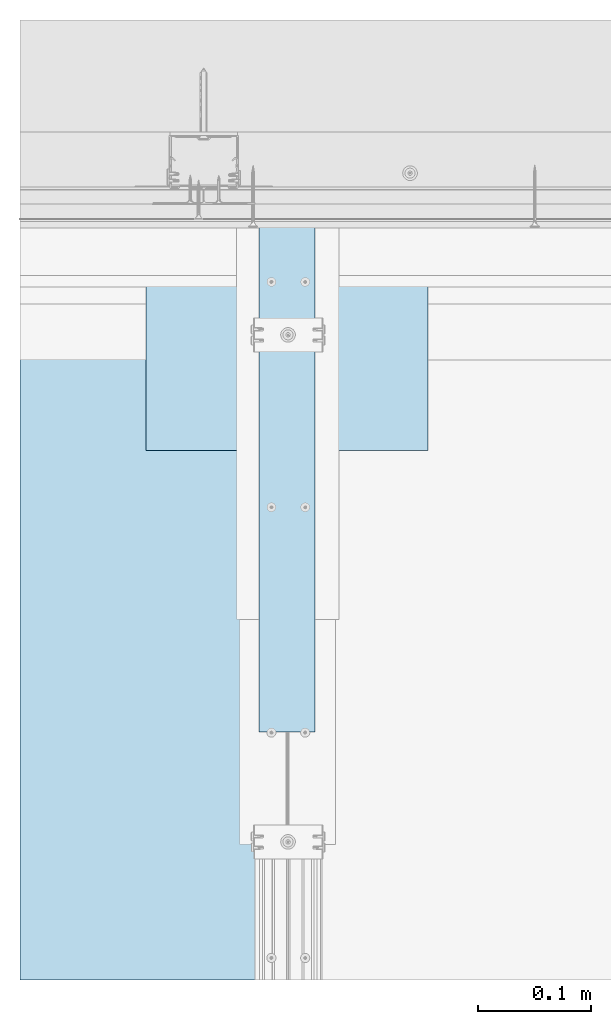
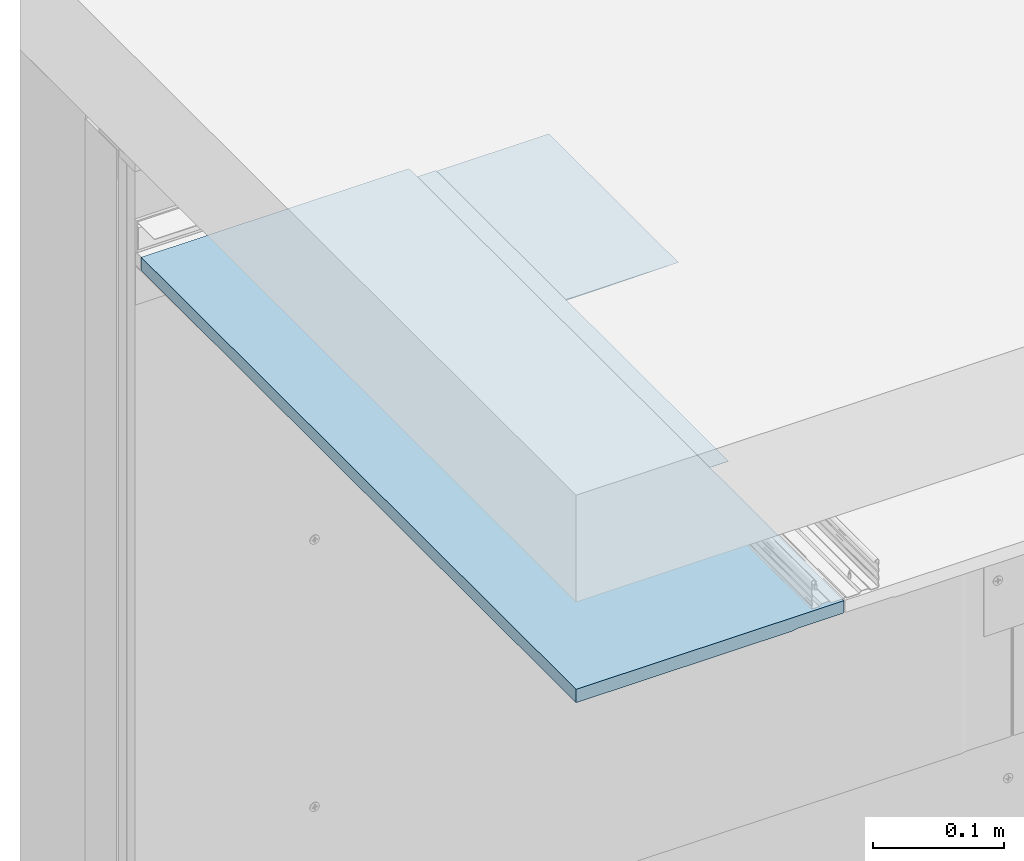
# One storey, part 2 of 62: 3 slabs.
"""IFC2X3 building model written with IfcOpenShell, lengths in millimetres."""

import ifcopenshell
import ifcopenshell.guid

model = None  # the IFC model being written
_history = None  # IfcOwnerHistory: only IFC2X3 demands one
_inside = {}  # id of a spatial element -> (the spatial element, [elements in it])
_under = {}  # id of a project, library or spatial element -> (it, [spatial elements below it])
_declared = {}  # id of a project -> (the project, [libraries it declares])
_typed = {}  # id of a type object -> (the type object, [elements of that type])
_made_of = {}  # id of a material, layer set ... -> (it, [elements and type objects made of it])


def new_model(schema):
    """Start an empty IFC model of exactly this schema.

    Asked for "IFC4X3", IfcOpenShell would pick the latest addendum, in which some entities
    have other attributes; the version numbers below select the first issue.
    IFC2X3 requires an IfcOwnerHistory on every rooted entity: one is made here for all.
    """
    global model, _history
    if schema == "IFC4X3":
        model = ifcopenshell.file(schema_version=(4, 3, 0, 0))
    else:
        model = ifcopenshell.file(schema=schema)
    _inside.clear()
    _under.clear()
    _declared.clear()
    _typed.clear()
    _made_of.clear()
    _history = None
    if model.schema == "IFC2X3":
        org = make("IfcOrganization", Name="unknown")
        user = make(
            "IfcPersonAndOrganization",
            ThePerson=make("IfcPerson", FamilyName="unknown"),
            TheOrganization=org,
        )
        app = make(
            "IfcApplication",
            ApplicationDeveloper=org,
            Version="unknown",
            ApplicationFullName="unknown",
            ApplicationIdentifier="unknown",
        )
        _history = make(
            "IfcOwnerHistory",
            OwningUser=user,
            OwningApplication=app,
            ChangeAction="ADDED",
            CreationDate=0,
        )
    return model


def make(cls, **values):
    """One entity of the class cls with the attributes given. An attribute that is None is left unset."""
    return model.create_entity(
        cls, **{name: value for name, value in values.items() if value is not None}
    )


def entity(cls, *values):
    """Any entity or typed value of the class cls, its attributes in the order of the schema. None: left unset."""
    e = model.create_entity(cls)
    for i, value in enumerate(values):
        if value is not None:
            e[i] = value
    return e


def rooted(cls, **values):
    """An entity with a GlobalId (a new one), such as an element, a storey or a relation."""
    return make(cls, GlobalId=ifcopenshell.guid.new(), OwnerHistory=_history, **values)


def si_unit(unit_type, name, prefix=None):
    """IfcSIUnit, for example si_unit("LENGTHUNIT", "METRE", prefix="MILLI")."""
    return make("IfcSIUnit", UnitType=unit_type, Prefix=prefix, Name=name)


def converted_unit(unit_type, name, factor, base, dimensions=None, offset=None):
    """IfcConversionBasedUnit, such as the inch: factor (a typed value) times the base unit."""
    return make(
        "IfcConversionBasedUnit"
        if offset is None
        else "IfcConversionBasedUnitWithOffset",
        ConversionOffset=offset,
        Dimensions=None
        if dimensions is None
        else entity("IfcDimensionalExponents", *dimensions),
        UnitType=unit_type,
        Name=name,
        ConversionFactor=make(
            "IfcMeasureWithUnit", ValueComponent=factor, UnitComponent=base
        ),
    )


def assignment(units):
    """IfcUnitAssignment: the units of a project."""
    return None if units is None else make("IfcUnitAssignment", Units=units)


def point(xyz):
    """IfcCartesianPoint."""
    return None if xyz is None else make("IfcCartesianPoint", Coordinates=xyz)


def direction(xyz):
    """IfcDirection."""
    return None if xyz is None else make("IfcDirection", DirectionRatios=xyz)


def frame(location, z_axis=None, x_axis=None):
    """IfcAxis2Placement3D, a coordinate frame: its origin and axes. An axis left out is left unset."""
    return make(
        "IfcAxis2Placement3D",
        Location=point(location),
        Axis=direction(z_axis),
        RefDirection=direction(x_axis),
    )


def origin():
    """The frame at (0, 0, 0) with its axes left unset."""
    return frame((0.0, 0.0, 0.0))


def origin_with_axes():
    """The frame at (0, 0, 0) with the z axis (0, 0, 1) and the x axis (1, 0, 0) written out."""
    return frame((0.0, 0.0, 0.0), z_axis=(0.0, 0.0, 1.0), x_axis=(1.0, 0.0, 0.0))


def place(relative_to, where):
    """IfcLocalPlacement: puts the frame where relative to a parent placement (None: the world)."""
    return make(
        "IfcLocalPlacement", PlacementRelTo=relative_to, RelativePlacement=where
    )


def context(
    kind, dimensions, precision=None, world=None, true_north=None, identifier=None
):
    """IfcGeometricRepresentationContext, for example the 3D "Model" context."""
    return make(
        "IfcGeometricRepresentationContext",
        ContextIdentifier=identifier,
        ContextType=kind,
        CoordinateSpaceDimension=dimensions,
        Precision=precision,
        WorldCoordinateSystem=world,
        TrueNorth=true_north,
    )


def project(units=None, contexts=None):
    """IfcProject with its units and contexts."""
    return rooted(
        "IfcProject",
        Name="project",
        RepresentationContexts=contexts,
        UnitsInContext=assignment(units),
    )


def spatial(cls, under=None, at=None, **own):
    """A site, building, storey or space (cls), placed at a placement, below another one or the project."""
    s = rooted(cls, ObjectPlacement=at, **own)
    if under is not None:
        _under.setdefault(under.id(), (under, []))[1].append(s)
    return s


def faces_of(points, faces, orient=None, outer=None):
    """IfcFace entities. A face is a list of loops; a loop is a list of indices into points, from 0.

    orient and outer hold one flag for each loop. By default every Orientation is true, the
    first loop of a face is its IfcFaceOuterBound and the others are IfcFaceBound.
    """
    made = []
    for i, loops in enumerate(faces):
        bounds = []
        for j, loop in enumerate(loops):
            is_outer = j == 0 if outer is None else outer[i][j]
            bounds.append(
                make(
                    "IfcFaceOuterBound" if is_outer else "IfcFaceBound",
                    Bound=make("IfcPolyLoop", Polygon=[points[k] for k in loop]),
                    Orientation=True if orient is None else orient[i][j],
                )
            )
        made.append(make("IfcFace", Bounds=bounds))
    return made


def faceted_brep(points, faces, orient=None, outer=None, voids=None):
    """IfcFacetedBrep: a solid bounded by flat faces; with voids (closed shells), ...WithVoids."""
    shared = [point(p) for p in points]
    hull = make("IfcClosedShell", CfsFaces=faces_of(shared, faces, orient, outer))
    if voids is None:
        return make("IfcFacetedBrep", Outer=hull)
    return make(
        "IfcFacetedBrepWithVoids",
        Outer=hull,
        Voids=[
            make(cls, CfsFaces=faces_of(shared, fs, o, b)) for cls, fs, o, b in voids
        ],
    )


def shape(context_of_items, identifier, shape_type, items):
    """IfcShapeRepresentation: the items that make up one representation, for example the "Body"."""
    return make(
        "IfcShapeRepresentation",
        ContextOfItems=context_of_items,
        RepresentationIdentifier=identifier,
        RepresentationType=shape_type,
        Items=items,
    )


def made_of(thing, what):
    """Note that an element or type object is made of a material, layer set ...; save() writes the relation."""
    if what is not None:
        _made_of.setdefault(what.id(), (what, []))[1].append(thing)
    return thing


def element(
    cls,
    number,
    at=None,
    inside=None,
    cuts=None,
    type_object=None,
    material=None,
    context=None,
    identifier="Body",
    shape_type=None,
    held_by="IfcProductDefinitionShape",
    body=None,
    shapes=None,
    **own,
):
    """One element of the class cls, such as IfcWall. Its Tag is "e" and its number.

    at: its placement. inside: the storey or other place that contains it. cuts: it is an
    opening in that element (IfcRelVoidsElement). A single representation is given by context,
    identifier, shape_type and body (its items); several are given by shapes. held_by: the class
    of the entity that holds the representations. save() writes the other relations.
    """
    e = rooted(cls, Tag="e%d" % number, ObjectPlacement=at, **own)
    if body is not None:
        shapes = [shape(context, identifier, shape_type, body)]
    if shapes is not None:
        e.Representation = make(held_by, Representations=shapes)
    if inside is not None:
        _inside.setdefault(inside.id(), (inside, []))[1].append(e)
    if cuts is not None:
        rooted(
            "IfcRelVoidsElement", RelatingBuildingElement=cuts, RelatedOpeningElement=e
        )
    if type_object is not None:
        _typed.setdefault(type_object.id(), (type_object, []))[1].append(e)
    return made_of(e, material)


def aggregate(whole, parts):
    """IfcRelAggregates: a whole, such as a stair, and the parts it consists of."""
    return rooted("IfcRelAggregates", RelatingObject=whole, RelatedObjects=parts)


def save(model, path):
    """Write the relations noted so far, then the file.

    IfcRelAggregates (storeys below a building ...), IfcRelContainedInSpatialStructure (elements
    in a storey), IfcRelDefinesByType, IfcRelAssociatesMaterial and IfcRelDeclares: one each for
    every whole, place, type object, material and project.
    """
    for whole, parts in _under.values():
        aggregate(whole, parts)
    for where, things in _inside.values():
        rooted(
            "IfcRelContainedInSpatialStructure",
            RelatedElements=things,
            RelatingStructure=where,
        )
    for kind, things in _typed.values():
        rooted("IfcRelDefinesByType", RelatedObjects=things, RelatingType=kind)
    for what, things in _made_of.values():
        rooted("IfcRelAssociatesMaterial", RelatedObjects=things, RelatingMaterial=what)
    for by, libraries in _declared.values():
        rooted("IfcRelDeclares", RelatingContext=by, RelatedDefinitions=libraries)
    model.write(path)


model = new_model("IFC2X3")

# Units and contexts
model_context = context("Model", 3, precision=1e-05, world=origin(), true_north=direction((0.0, 1.0, 0.0)))
ifc_project = project(units=[si_unit("LENGTHUNIT", "METRE", prefix="MILLI"), si_unit("AREAUNIT", "SQUARE_METRE"), si_unit("VOLUMEUNIT", "CUBIC_METRE"), converted_unit("PLANEANGLEUNIT", "DEGREE", entity("IfcPlaneAngleMeasure", 0.01745), si_unit("PLANEANGLEUNIT", "RADIAN"), dimensions=[0, 0, 0, 0, 0, 0, 0]), si_unit("SOLIDANGLEUNIT", "STERADIAN"), si_unit("MASSUNIT", "GRAM"), si_unit("TIMEUNIT", "SECOND"), si_unit("THERMODYNAMICTEMPERATUREUNIT", "DEGREE_CELSIUS"), si_unit("LUMINOUSINTENSITYUNIT", "LUMEN")], contexts=[model_context])

# Site, building, storey
site_placement = place(None, origin_with_axes())
site = spatial("IfcSite", under=ifc_project, at=site_placement, Name="Default Site", CompositionType="ELEMENT")
building_placement = place(site_placement, origin_with_axes())
building = spatial("IfcBuilding", under=site, at=building_placement, Name="Default Building", CompositionType="ELEMENT")
storey_placement = place(building_placement, origin_with_axes())
storey = spatial("IfcBuildingStorey", under=building, at=storey_placement, Name="Default Building Storey", CompositionType="ELEMENT", Elevation=0.0)

# Slabs
slab_1_placement = place(storey_placement, frame((3099.435303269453, 1941.015681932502, 4687.928819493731), z_axis=(0.0, -1.0, 3.330669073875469e-16), x_axis=(1.0, 0.0, 0.0)))
element("IfcSlab", 1, at=slab_1_placement, inside=storey, Name="Dedykowana masa szpachlowa Rigips - wykończeniowa", context=model_context, shape_type="Brep", body=[
    faceted_brep([(-612.459216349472, -3390.556721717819, 2.449996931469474), (-862.459216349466, -3390.556721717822, 2.449996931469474), (-812.4612643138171, -3391.196716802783, 2.449996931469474), (-762.4602403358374, -3391.516720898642, 2.449996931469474), (-712.458192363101, -3391.51672089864, 2.449996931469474), (-662.4571683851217, -3391.19671680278, 2.449996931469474), (-762.4602403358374, -3391.516720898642, 200.8000000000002), (-812.4612643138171, -3391.196716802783, 200.8000000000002), (-862.459216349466, -3390.556721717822, 200.8000000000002), (-612.459216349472, -3390.556721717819, 200.8000000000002), (-662.4571683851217, -3391.19671680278, 200.8000000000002), (-712.458192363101, -3391.516720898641, 200.8000000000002)], [[[0, 1, 2, 3, 4, 5]], [[6, 7, 8, 9, 10, 11]], [[9, 0, 5, 10]], [[10, 5, 4, 11]], [[11, 4, 3, 6]], [[6, 3, 2, 7]], [[1, 8, 7, 2]], [[0, 9, 8, 1]]]),
])
slab_2_placement = place(storey_placement, frame((2361.976086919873, 886.56410331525, 1309.872097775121), z_axis=(-6.72623262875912e-44, -1.0, 3.330669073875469e-16), x_axis=(-1.0, 2.128075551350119e-28, 6.389333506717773e-13)))
element("IfcSlab", 2, at=slab_2_placement, inside=storey, Name="Płyta gipsowo-kartonowa RIGIPS PRO (4PRO™)", context=model_context, shape_type="Brep", body=[
    faceted_brep([(236.950953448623, 12.49999999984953, -383.5768194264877), (236.950953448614, -1.227249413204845e-10, -383.5768194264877), (236.950953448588, -1.200177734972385e-10, -1050.001581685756), (236.950953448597, 12.49999999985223, -1050.001581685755), (44.99999999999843, 12.50000000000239, -383.5768194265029), (40.99999999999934, 11.50000000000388, -383.5768194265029), (0.9999999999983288, 11.50000000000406, -383.5768194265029), (0.7411809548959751, 11.4659258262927, -383.5768194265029), (0.4999999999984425, 11.36602540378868, -383.5768194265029), (0.292893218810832, 11.20710678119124, -383.5768194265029), (0.1339745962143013, 11.00000000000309, -383.5768194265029), (0.03407417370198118, 10.75881904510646, -383.5768194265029), (-1.804778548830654e-12, 10.50000000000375, -383.5768194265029), (7.219114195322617e-13, 3.609557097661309e-13, -383.5768194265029), (44.9999999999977, 12.50000000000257, -1050.001581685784), (40.99999999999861, 11.50000000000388, -1050.001581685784), (0.9999999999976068, 11.50000000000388, -1050.001581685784), (0.7411809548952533, 11.46592582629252, -1050.001581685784), (0.4999999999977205, 11.3660254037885, -1050.001581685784), (0.29289321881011, 11.20710678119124, -1050.001581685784), (0.1339745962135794, 11.00000000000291, -1050.001581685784), (0.03407417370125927, 10.75881904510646, -1050.001581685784), (-2.526689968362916e-12, 10.50000000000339, -1050.001581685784), (0.0, 0.0, -1050.001581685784)], [[[0, 1, 2, 3]], [[0, 4, 5, 6, 7, 8, 9, 10, 11, 12, 13, 1]], [[3, 14, 4, 0]], [[5, 4, 14, 15]], [[6, 5, 15, 16]], [[7, 6, 16, 17]], [[8, 7, 17, 18]], [[9, 8, 18, 19]], [[10, 9, 19, 20]], [[11, 10, 20, 21]], [[12, 11, 21, 22]], [[13, 12, 22, 23]], [[2, 1, 13, 23]], [[14, 3, 2, 23, 22, 21, 20, 19, 18, 17, 16, 15]]]),
])
slab_3_placement = place(storey_placement, frame((3099.435303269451, 1941.015681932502, 4687.72881949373), z_axis=(2.257951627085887e-47, -1.0, 3.330669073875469e-16), x_axis=(1.0, 2.257951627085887e-47, -7.520489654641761e-63)))
element("IfcSlab", 3, at=slab_3_placement, inside=storey, Name="Taśma spoinowa RIGIPS", context=model_context, shape_type="Brep", body=[
    faceted_brep([(-712.4592163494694, -3389.656721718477, 450.8), (-712.4592163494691, -3389.856721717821, 450.8), (-762.4592163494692, -3389.856721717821, 450.8), (-762.4592163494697, -3389.656721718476, 450.8), (-712.4592163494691, -3389.856721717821, 2.449996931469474), (-712.4592163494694, -3389.656721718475, 2.449996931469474), (-762.4592163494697, -3389.656721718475, 2.449996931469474), (-762.4592163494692, -3389.856721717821, 2.449996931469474)], [[[0, 1, 2, 3]], [[4, 5, 6, 7]], [[5, 0, 3, 6]], [[6, 3, 2, 7]], [[7, 2, 1, 4]], [[4, 1, 0, 5]]]),
])

save(model, "model.ifc")
